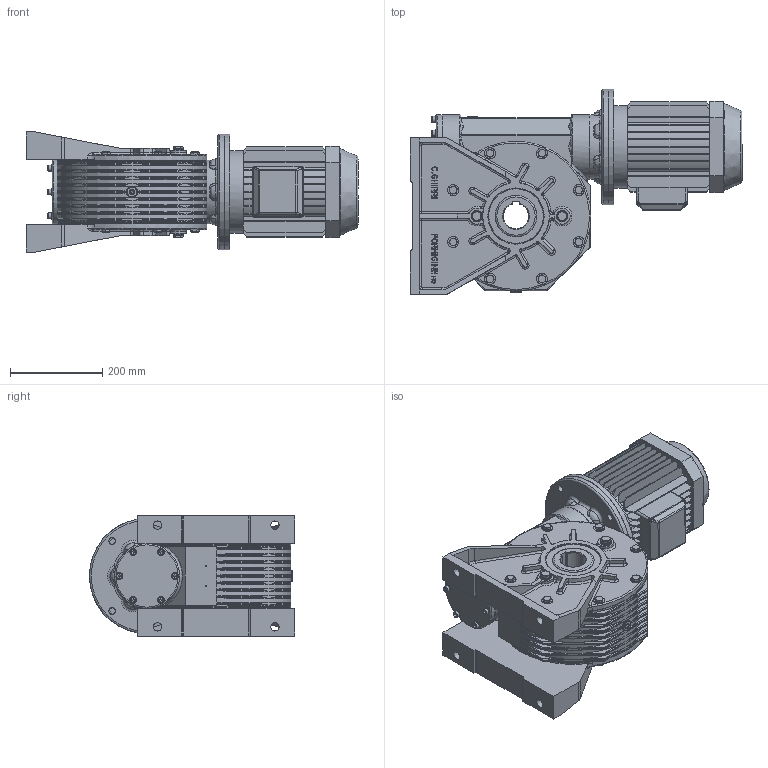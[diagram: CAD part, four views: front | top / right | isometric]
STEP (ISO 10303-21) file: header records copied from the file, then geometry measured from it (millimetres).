
FILE_DESCRIPTION((''),'2;1');
FILE_NAME('Y:\Archivi Inventor\Prog_01\GRAND_70\complessivi\Figurini\mrv70 sito\100\MRV70_P3_100_B5.stp','2013-02-08T14:43:46',('tech3'),(''),'Autodesk Inventor 2013','Autodesk Inventor 2013','');
FILE_SCHEMA(('AUTOMOTIVE_DESIGN { 1 0 10303 214 1 1 1 1 }'));
Length unit declared in the file: millimetre
Products named in the file (17): MRV70_100L_112M_B5; MRV70 figurino; 0107001-A0 figurino; 0107008.A0 figurino; 0107010.A0 figurino; 0107029; 0107009; 0107028; DIN 3760 AS AS - 90 x 120 x 12 - NBR; UNI 8839 A 8; Guarnizione 3_8 GAS; Tappo 3_8 GAS_esagn_incsst; DIN EN ISO 4762 M8 x 20; DIN EN 24017 M10 x 20; Tappo3_8 GAS; 0107006; motori B5 100
Assembly tree (60 placements, depth 3):
  MRV70_100L_112M_B5
    MRV70 figurino
      0107001-A0 figurino
      0107008.A0 figurino
      0107010.A0 figurino  x2
      0107029  x2
      0107009
      0107028  x2
      DIN 3760 AS AS - 90 x 120 x 12 - NBR  x2
      UNI 8839 A 8  x6
      Guarnizione 3_8 GAS  x6
      Tappo 3_8 GAS_esagn_incsst  x2
      DIN EN ISO 4762 M8 x 20  x6
      DIN EN 24017 M10 x 20  x16
      Tappo3_8 GAS  x4
    0107006
    DIN EN ISO 4762 M8 x 20  x6
    motori B5 100
Bounding box: 720.4 x 445 x 260.8 mm (x, y, z)
Volume: 25190152.8 mm3; surface area: 2247784.5 mm2
Topology: 59 solids, 59 shells, 2973 faces, 7420 edges, 4602 vertices
Faces by surface type: plane 1230, cylinder 667, bspline 655, cone 208, torus 205, sphere 8
Full cylindrical faces by diameter (mm): 2 x2, 6.647 x12, 8 x14, 8.376 x16, 8.5 x24, 10 x16, 10.5 x16, 11 x16, 13 x12, 13.046 x4, 14 x4, 14.63 x16, 14.95 x6, 15 x4, 16.3 x6, 16.5 x2, 18 x4, 20 x6, 22 x12, 24 x18, 25 x4, 28 x1, 61 x1, 75 x1, 90 x4, 97.2 x2, 100 x6, 114 x2, 114.4 x1, 120 x4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
Entity records: 67753 total; most frequent: CARTESIAN_POINT 25243, ORIENTED_EDGE 8714, DIRECTION 7903, EDGE_CURVE 4357, AXIS2_PLACEMENT_3D 2958, VERTEX_POINT 2831, EDGE_LOOP 2226, VECTOR 1987
